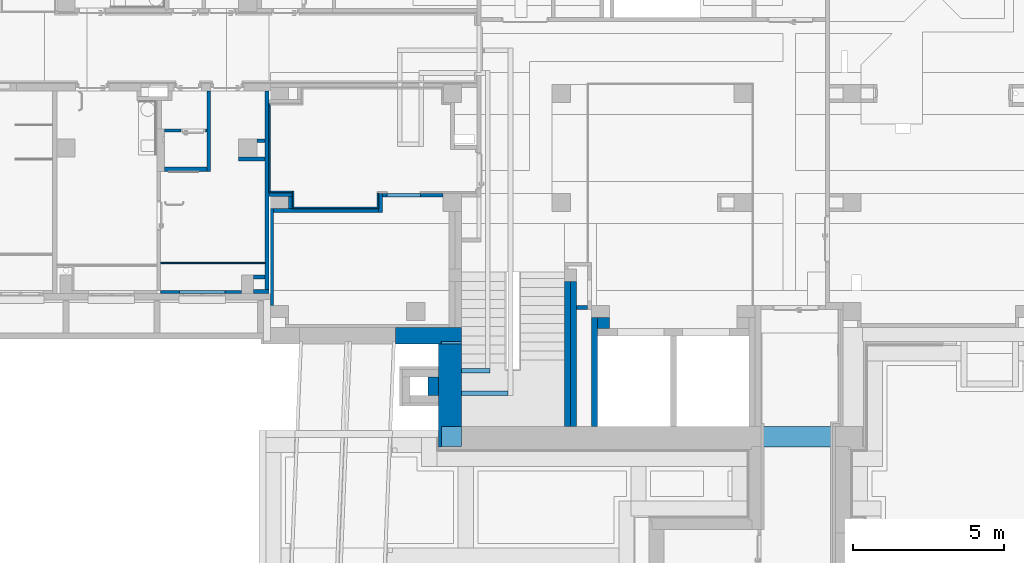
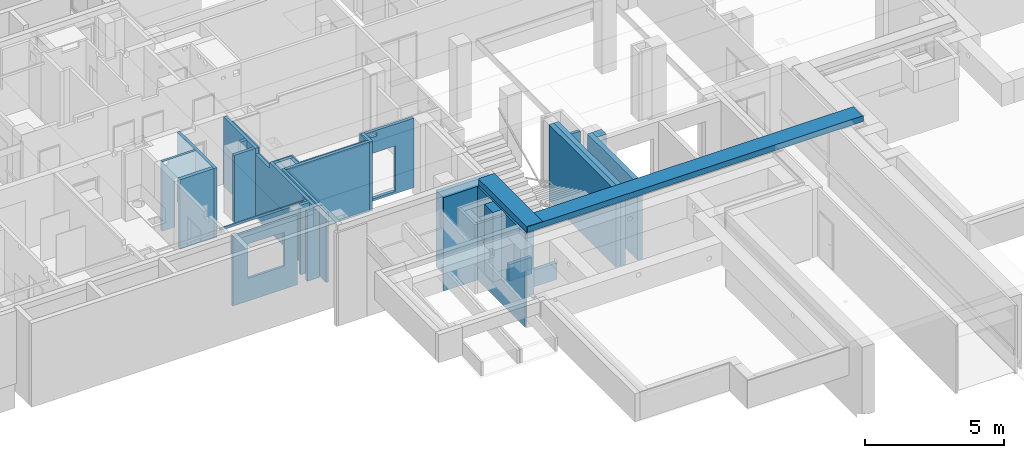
# One storey, part 16 of 84: 33 walls, 9 openings.
"""IFC4 building model written with IfcOpenShell, lengths in metres."""

import ifcopenshell
import ifcopenshell.guid

model = None  # the IFC model being written
_history = None  # IfcOwnerHistory: only IFC2X3 demands one
_inside = {}  # id of a spatial element -> (the spatial element, [elements in it])
_under = {}  # id of a project, library or spatial element -> (it, [spatial elements below it])
_declared = {}  # id of a project -> (the project, [libraries it declares])
_typed = {}  # id of a type object -> (the type object, [elements of that type])
_made_of = {}  # id of a material, layer set ... -> (it, [elements and type objects made of it])


def new_model(schema):
    """Start an empty IFC model of exactly this schema.

    Asked for "IFC4X3", IfcOpenShell would pick the latest addendum, in which some entities
    have other attributes; the version numbers below select the first issue.
    IFC2X3 requires an IfcOwnerHistory on every rooted entity: one is made here for all.
    """
    global model, _history
    if schema == "IFC4X3":
        model = ifcopenshell.file(schema_version=(4, 3, 0, 0))
    else:
        model = ifcopenshell.file(schema=schema)
    _inside.clear()
    _under.clear()
    _declared.clear()
    _typed.clear()
    _made_of.clear()
    _history = None
    if model.schema == "IFC2X3":
        org = make("IfcOrganization", Name="unknown")
        user = make(
            "IfcPersonAndOrganization",
            ThePerson=make("IfcPerson", FamilyName="unknown"),
            TheOrganization=org,
        )
        app = make(
            "IfcApplication",
            ApplicationDeveloper=org,
            Version="unknown",
            ApplicationFullName="unknown",
            ApplicationIdentifier="unknown",
        )
        _history = make(
            "IfcOwnerHistory",
            OwningUser=user,
            OwningApplication=app,
            ChangeAction="ADDED",
            CreationDate=0,
        )
    return model


def make(cls, **values):
    """One entity of the class cls with the attributes given. An attribute that is None is left unset."""
    return model.create_entity(
        cls, **{name: value for name, value in values.items() if value is not None}
    )


def entity(cls, *values):
    """Any entity or typed value of the class cls, its attributes in the order of the schema. None: left unset."""
    e = model.create_entity(cls)
    for i, value in enumerate(values):
        if value is not None:
            e[i] = value
    return e


def rooted(cls, **values):
    """An entity with a GlobalId (a new one), such as an element, a storey or a relation."""
    return make(cls, GlobalId=ifcopenshell.guid.new(), OwnerHistory=_history, **values)


def si_unit(unit_type, name, prefix=None):
    """IfcSIUnit, for example si_unit("LENGTHUNIT", "METRE", prefix="MILLI")."""
    return make("IfcSIUnit", UnitType=unit_type, Prefix=prefix, Name=name)


def converted_unit(unit_type, name, factor, base, dimensions=None, offset=None):
    """IfcConversionBasedUnit, such as the inch: factor (a typed value) times the base unit."""
    return make(
        "IfcConversionBasedUnit"
        if offset is None
        else "IfcConversionBasedUnitWithOffset",
        ConversionOffset=offset,
        Dimensions=None
        if dimensions is None
        else entity("IfcDimensionalExponents", *dimensions),
        UnitType=unit_type,
        Name=name,
        ConversionFactor=make(
            "IfcMeasureWithUnit", ValueComponent=factor, UnitComponent=base
        ),
    )


def derived_unit(unit_type, elements):
    """IfcDerivedUnit: a product of units, each with its exponent."""
    return make(
        "IfcDerivedUnit",
        Elements=[
            make("IfcDerivedUnitElement", Unit=unit, Exponent=power)
            for unit, power in elements
        ],
        UnitType=unit_type,
    )


def assignment(units):
    """IfcUnitAssignment: the units of a project."""
    return None if units is None else make("IfcUnitAssignment", Units=units)


def point(xyz):
    """IfcCartesianPoint."""
    return None if xyz is None else make("IfcCartesianPoint", Coordinates=xyz)


def direction(xyz):
    """IfcDirection."""
    return None if xyz is None else make("IfcDirection", DirectionRatios=xyz)


def frame(location, z_axis=None, x_axis=None):
    """IfcAxis2Placement3D, a coordinate frame: its origin and axes. An axis left out is left unset."""
    return make(
        "IfcAxis2Placement3D",
        Location=point(location),
        Axis=direction(z_axis),
        RefDirection=direction(x_axis),
    )


def frame_2d(location, x_axis=None):
    """IfcAxis2Placement2D, a coordinate frame in the plane: its origin and x axis."""
    return make(
        "IfcAxis2Placement2D", Location=point(location), RefDirection=direction(x_axis)
    )


def origin():
    """The frame at (0, 0, 0) with its axes left unset."""
    return frame((0.0, 0.0, 0.0))


def origin_with_axes():
    """The frame at (0, 0, 0) with the z axis (0, 0, 1) and the x axis (1, 0, 0) written out."""
    return frame((0.0, 0.0, 0.0), z_axis=(0.0, 0.0, 1.0), x_axis=(1.0, 0.0, 0.0))


def place(relative_to, where):
    """IfcLocalPlacement: puts the frame where relative to a parent placement (None: the world)."""
    return make(
        "IfcLocalPlacement", PlacementRelTo=relative_to, RelativePlacement=where
    )


def context(
    kind, dimensions, precision=None, world=None, true_north=None, identifier=None
):
    """IfcGeometricRepresentationContext, for example the 3D "Model" context."""
    return make(
        "IfcGeometricRepresentationContext",
        ContextIdentifier=identifier,
        ContextType=kind,
        CoordinateSpaceDimension=dimensions,
        Precision=precision,
        WorldCoordinateSystem=world,
        TrueNorth=true_north,
    )


def subcontext(parent, identifier, kind, view, scale=None):
    """IfcGeometricRepresentationSubContext, for example "Body" below "Model"."""
    return make(
        "IfcGeometricRepresentationSubContext",
        ContextIdentifier=identifier,
        ContextType=kind,
        ParentContext=parent,
        TargetScale=scale,
        TargetView=view,
    )


def project(units=None, contexts=None):
    """IfcProject with its units and contexts."""
    return rooted(
        "IfcProject",
        Name="project",
        RepresentationContexts=contexts,
        UnitsInContext=assignment(units),
    )


def spatial(cls, under=None, at=None, **own):
    """A site, building, storey or space (cls), placed at a placement, below another one or the project."""
    s = rooted(cls, ObjectPlacement=at, **own)
    if under is not None:
        _under.setdefault(under.id(), (under, []))[1].append(s)
    return s


def polyline(points):
    """IfcPolyline through the points."""
    return make("IfcPolyline", Points=[point(p) for p in points])


def profile(cls, at=None, kind="AREA", **sizes):
    """A parametric profile (cls). Its sizes go by their IFC names, for example OverallWidth=200.0."""
    return make(cls, ProfileType=kind, Position=at, **sizes)


def rectangle(**sizes):
    """IfcRectangleProfileDef."""
    return profile("IfcRectangleProfileDef", **sizes)


def outline(outer, holes=None, kind="AREA"):
    """IfcArbitraryClosedProfileDef: a profile drawn as a closed curve; with holes, ...WithVoids."""
    if holes is None:
        return make("IfcArbitraryClosedProfileDef", ProfileType=kind, OuterCurve=outer)
    return make(
        "IfcArbitraryProfileDefWithVoids",
        ProfileType=kind,
        OuterCurve=outer,
        InnerCurves=holes,
    )


def extrude(swept, where, along, depth):
    """IfcExtrudedAreaSolid: the profile swept, set in the frame where, extruded along a direction by depth."""
    return make(
        "IfcExtrudedAreaSolid",
        SweptArea=swept,
        Position=where,
        ExtrudedDirection=direction(along),
        Depth=depth,
    )


def clip(a, b, op="DIFFERENCE"):
    """IfcBooleanClippingResult: the solid a cut by the half space b."""
    return make(
        "IfcBooleanClippingResult", Operator=op, FirstOperand=a, SecondOperand=b
    )


def bounded_halfspace(plane, agree, where, boundary):
    """IfcPolygonalBoundedHalfSpace: a half space limited to a polygon's prism."""
    return make(
        "IfcPolygonalBoundedHalfSpace",
        BaseSurface=make("IfcPlane", Position=plane),
        AgreementFlag=agree,
        Position=where,
        PolygonalBoundary=boundary,
    )


def shape(context_of_items, identifier, shape_type, items):
    """IfcShapeRepresentation: the items that make up one representation, for example the "Body"."""
    return make(
        "IfcShapeRepresentation",
        ContextOfItems=context_of_items,
        RepresentationIdentifier=identifier,
        RepresentationType=shape_type,
        Items=items,
    )


def material(Name=None, Category=None):
    """IfcMaterial."""
    return make("IfcMaterial", Name=Name, Category=Category)


def layer(
    of_material, thickness, ventilated=None, Name=None, Category=None, Priority=None
):
    """IfcMaterialLayer: one layer of a wall or slab, of a material (None: an air gap)."""
    return make(
        "IfcMaterialLayer",
        Material=of_material,
        LayerThickness=thickness,
        IsVentilated=ventilated,
        Name=Name,
        Category=Category,
        Priority=Priority,
    )


def layer_set(layers, Name=None):
    """IfcMaterialLayerSet."""
    return make("IfcMaterialLayerSet", MaterialLayers=layers, LayerSetName=Name)


def layer_usage(for_layer_set, set_direction, sense, offset, extent=None):
    """IfcMaterialLayerSetUsage: how a layer set lies in its element."""
    return make(
        "IfcMaterialLayerSetUsage",
        ForLayerSet=for_layer_set,
        LayerSetDirection=set_direction,
        DirectionSense=sense,
        OffsetFromReferenceLine=offset,
        ReferenceExtent=extent,
    )


def made_of(thing, what):
    """Note that an element or type object is made of a material, layer set ...; save() writes the relation."""
    if what is not None:
        _made_of.setdefault(what.id(), (what, []))[1].append(thing)
    return thing


def element(
    cls,
    number,
    at=None,
    inside=None,
    cuts=None,
    type_object=None,
    material=None,
    context=None,
    identifier="Body",
    shape_type=None,
    held_by="IfcProductDefinitionShape",
    body=None,
    shapes=None,
    **own,
):
    """One element of the class cls, such as IfcWall. Its Tag is "e" and its number.

    at: its placement. inside: the storey or other place that contains it. cuts: it is an
    opening in that element (IfcRelVoidsElement). A single representation is given by context,
    identifier, shape_type and body (its items); several are given by shapes. held_by: the class
    of the entity that holds the representations. save() writes the other relations.
    """
    e = rooted(cls, Tag="e%d" % number, ObjectPlacement=at, **own)
    if body is not None:
        shapes = [shape(context, identifier, shape_type, body)]
    if shapes is not None:
        e.Representation = make(held_by, Representations=shapes)
    if inside is not None:
        _inside.setdefault(inside.id(), (inside, []))[1].append(e)
    if cuts is not None:
        rooted(
            "IfcRelVoidsElement", RelatingBuildingElement=cuts, RelatedOpeningElement=e
        )
    if type_object is not None:
        _typed.setdefault(type_object.id(), (type_object, []))[1].append(e)
    return made_of(e, material)


def aggregate(whole, parts):
    """IfcRelAggregates: a whole, such as a stair, and the parts it consists of."""
    return rooted("IfcRelAggregates", RelatingObject=whole, RelatedObjects=parts)


def save(model, path):
    """Write the relations noted so far, then the file.

    IfcRelAggregates (storeys below a building ...), IfcRelContainedInSpatialStructure (elements
    in a storey), IfcRelDefinesByType, IfcRelAssociatesMaterial and IfcRelDeclares: one each for
    every whole, place, type object, material and project.
    """
    for whole, parts in _under.values():
        aggregate(whole, parts)
    for where, things in _inside.values():
        rooted(
            "IfcRelContainedInSpatialStructure",
            RelatedElements=things,
            RelatingStructure=where,
        )
    for kind, things in _typed.values():
        rooted("IfcRelDefinesByType", RelatedObjects=things, RelatingType=kind)
    for what, things in _made_of.values():
        rooted("IfcRelAssociatesMaterial", RelatedObjects=things, RelatingMaterial=what)
    for by, libraries in _declared.values():
        rooted("IfcRelDeclares", RelatingContext=by, RelatedDefinitions=libraries)
    model.write(path)


model = new_model("IFC4")

# Units and contexts
model_context = context("Model", 3, precision=1e-05, world=origin())
body_context = subcontext(model_context, "Body", "Model", "MODEL_VIEW")
ifc_project = project(units=[si_unit("LENGTHUNIT", "METRE"), si_unit("AREAUNIT", "SQUARE_METRE"), si_unit("VOLUMEUNIT", "CUBIC_METRE"), si_unit("MASSUNIT", "GRAM", prefix="KILO"), converted_unit("PLANEANGLEUNIT", "DEGREE", entity("IfcPlaneAngleMeasure", 0.0174532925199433), si_unit("PLANEANGLEUNIT", "RADIAN"), dimensions=[0, 0, 0, 0, 0, 0, 0]), derived_unit("THERMALTRANSMITTANCEUNIT", [(si_unit("POWERUNIT", "WATT"), 1), (si_unit("THERMODYNAMICTEMPERATUREUNIT", "KELVIN"), -1), (si_unit("LENGTHUNIT", "METRE"), -2)]), derived_unit("VOLUMETRICFLOWRATEUNIT", [(si_unit("LENGTHUNIT", "METRE"), 3), (converted_unit("TIMEUNIT", "hour", entity("IfcTimeMeasure", 3600.0), si_unit("TIMEUNIT", "SECOND"), dimensions=[0, 0, 1, 0, 0, 0, 0]), -1), (si_unit("LENGTHUNIT", "METRE"), -1)])], contexts=[model_context])

# Site, building, storey
site_placement = place(None, origin())
site = spatial("IfcSite", under=ifc_project, at=site_placement, Name="3. ASŘ", CompositionType="ELEMENT")
building_placement = place(site_placement, origin())
building = spatial("IfcBuilding", under=site, at=building_placement, Name="Pavilon C", CompositionType="ELEMENT")
storey_placement = place(building_placement, frame((0.0, 0.0, -3.3)))
storey = spatial("IfcBuildingStorey", under=building, at=storey_placement, Name="Půdorys 1.PP", CompositionType="ELEMENT", Elevation=-3.3)

# Walls
ifc_material_1 = material(Name="ZELEZOBETONOVÁ KCE")
ifc_layer_1 = layer(ifc_material_1, 0.2)
ifc_layer_set_1 = layer_set([ifc_layer_1])
ifc_layer_usage_1 = layer_usage(ifc_layer_set_1, "AXIS2", "POSITIVE", 0.0)
wall_1_placement = place(storey_placement, frame((35.55, -3.8, -0.4), z_axis=(0.0, 0.0, 1.0), x_axis=(0.0, 1.0, 0.0)))
element("IfcWall", 1, at=wall_1_placement, inside=storey, material=ifc_layer_usage_1, Name="ZELEZOBETONOVÁ KCE", context=body_context, shape_type="SweptSolid", body=[
    extrude(rectangle(XDim=3.6, YDim=0.2, at=frame_2d((1.8, 0.1), x_axis=(1.0, 0.0))), origin_with_axes(), (0.0, 0.0, 1.0), 3.35),
])
ifc_material_2 = material(Name="ZDIVO Z CDm")
ifc_layer_2 = layer(ifc_material_2, 0.35)
ifc_layer_set_2 = layer_set([ifc_layer_2])
ifc_layer_usage_2 = layer_usage(ifc_layer_set_2, "AXIS2", "POSITIVE", 0.0)
wall_2_placement = place(storey_placement, frame((35.95, -0.200000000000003, -0.1), z_axis=(0.0, 0.0, 1.0), x_axis=(-1.0, 0.0, 0.0)))
element("IfcWall", 2, at=wall_2_placement, inside=storey, material=ifc_layer_usage_2, Name="ZDIVO Z CDm", context=body_context, shape_type="SweptSolid", body=[
    extrude(rectangle(XDim=0.4, YDim=0.35, at=frame_2d((0.2, 0.175), x_axis=(1.0, 0.0))), origin_with_axes(), (0.0, 0.0, 1.0), 3.05),
])
ifc_material_3 = material(Name="ZELEZOBETONOVÁ KCE")
ifc_layer_3 = layer(ifc_material_3, 0.2)
ifc_layer_set_3 = layer_set([ifc_layer_3])
ifc_layer_usage_3 = layer_usage(ifc_layer_set_3, "AXIS2", "POSITIVE", 0.0)
wall_3_placement = place(storey_placement, frame((34.45, 1.0, -0.4), z_axis=(0.0, 0.0, 1.0), x_axis=(0.0, -1.0, 0.0)))
element("IfcWall", 3, at=wall_3_placement, inside=storey, material=ifc_layer_usage_3, Name="ZELEZOBETONOVÁ KCE", context=body_context, shape_type="SweptSolid", body=[
    extrude(rectangle(XDim=4.8, YDim=0.2, at=frame_2d((2.4, 0.1), x_axis=(1.0, 0.0))), origin_with_axes(), (0.0, 0.0, 1.0), 3.35),
])
ifc_material_4 = material(Name="ZELEZOBETONOVÁ KCE")
ifc_layer_4 = layer(ifc_material_4, 0.2)
ifc_layer_set_4 = layer_set([ifc_layer_4])
ifc_layer_usage_4 = layer_usage(ifc_layer_set_4, "AXIS2", "POSITIVE", 0.0)
wall_4_placement = place(storey_placement, frame((34.65, 1.00000000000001, -0.4), z_axis=(0.0, 0.0, 1.0), x_axis=(0.0, -1.0, 0.0)))
element("IfcWall", 4, at=wall_4_placement, inside=storey, material=ifc_layer_usage_4, Name="ZELEZOBETONOVÁ KCE", context=body_context, shape_type="SweptSolid", body=[
    extrude(rectangle(XDim=4.8, YDim=0.2, at=frame_2d((2.4, 0.1), x_axis=(1.0, 0.0))), origin_with_axes(), (0.0, 0.0, 1.0), 3.35),
])
ifc_material_5 = material(Name="ZELEZOBETONOVÁ KCE")
wall_5_placement = place(storey_placement, frame((31.05, -3.8, -1.15), z_axis=(0.0, 0.0, 1.0), x_axis=(0.0, 1.0, 0.0)))
element("IfcWall", 5, at=wall_5_placement, inside=storey, material=ifc_material_5, Name="ZELEZOBETONOVÁ KCE", context=body_context, shape_type="Clipping", body=[
    clip(clip(clip(clip(clip(extrude(outline(polyline([(3.48, -0.105), (3.48, -0.08), (3.4, -0.08), (3.4, 0.0), (0.0, 0.0), (0.0, -0.08), (0.025, -0.08), (0.025, -0.105), (0.675, -0.105), (0.675, -0.755), (3.505, -0.755), (3.505, -0.105), (3.48, -0.105)])), frame((-0.675, 0.755, 0.0), z_axis=(0.0, 0.0, 1.0), x_axis=(1.0, 0.0, 0.0)), (0.0, 0.0, 1.0), 4.1), bounded_halfspace(frame((1.1725, 0.662500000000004, 1.15), z_axis=(0.0, 0.0, 1.0), x_axis=(1.0, 0.0, 0.0)), True, origin_with_axes(), polyline([(-0.65, 0.65), (-4.54747350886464e-16, 0.65), (2.805, 0.65), (2.805, 0.675), (2.725, 0.675), (-0.65, 0.675), (-0.65, 0.65)]))), bounded_halfspace(frame((1.415, 0.325, 0.750000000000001), z_axis=(0.0, 0.0, 1.0), x_axis=(0.0, -1.0, 0.0)), True, origin_with_axes(), polyline([(-4.54747350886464e-16, 0.65), (-4.54747350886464e-16, 0.0), (2.83, 0.0), (2.83, 0.65), (-4.54747350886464e-16, 0.65)]))), bounded_halfspace(frame((3.055, 0.715, 0.750000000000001), z_axis=(0.0, 0.0, -1.0), x_axis=(0.0, -1.0, 0.0)), True, origin_with_axes(), polyline([(2.83, 0.755), (2.83, 0.675), (3.28, 0.675), (3.28, 0.755), (2.83, 0.755)]))), bounded_halfspace(frame((2.8175, 0.715, 1.15), z_axis=(0.0, 0.0, -1.0), x_axis=(1.0, 0.0, 0.0)), True, origin_with_axes(), polyline([(2.805, 0.675), (2.83, 0.675), (2.83, 0.755), (2.805, 0.755), (2.805, 0.675)]))), bounded_halfspace(frame((1.335, 0.749999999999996, 1.05), z_axis=(0.0, 0.0, -1.0), x_axis=(0.0, 1.0, 0.0)), True, origin_with_axes(), polyline([(1.885, 0.744999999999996), (1.885, 0.755), (0.785, 0.755), (0.785, 0.744999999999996), (1.885, 0.744999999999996)]))),
    clip(clip(clip(clip(clip(extrude(outline(polyline([(0.475, -0.105), (0.475, 0.0), (0.0, 0.0), (0.0, -0.08), (0.025, -0.08), (0.025, -0.105), (0.475, -0.105)])), frame((2.805, 0.755, 0.0), z_axis=(0.0, 0.0, 1.0), x_axis=(1.0, 0.0, 0.0)), (0.0, 0.0, 1.0), 4.1), bounded_halfspace(frame((1.1725, 0.662500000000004, 1.15), z_axis=(0.0, 0.0, 1.0), x_axis=(1.0, 0.0, 0.0)), True, origin_with_axes(), polyline([(-0.65, 0.65), (-4.54747350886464e-16, 0.65), (2.805, 0.65), (2.805, 0.675), (2.725, 0.675), (-0.65, 0.675), (-0.65, 0.65)]))), bounded_halfspace(frame((1.415, 0.325, 0.750000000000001), z_axis=(0.0, 0.0, 1.0), x_axis=(0.0, -1.0, 0.0)), True, origin_with_axes(), polyline([(-4.54747350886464e-16, 0.65), (-4.54747350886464e-16, 0.0), (2.83, 0.0), (2.83, 0.65), (-4.54747350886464e-16, 0.65)]))), bounded_halfspace(frame((3.055, 0.715, 0.750000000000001), z_axis=(0.0, 0.0, -1.0), x_axis=(0.0, -1.0, 0.0)), True, origin_with_axes(), polyline([(2.83, 0.755), (2.83, 0.675), (3.28, 0.675), (3.28, 0.755), (2.83, 0.755)]))), bounded_halfspace(frame((2.8175, 0.715, 1.15), z_axis=(0.0, 0.0, -1.0), x_axis=(1.0, 0.0, 0.0)), True, origin_with_axes(), polyline([(2.805, 0.675), (2.83, 0.675), (2.83, 0.755), (2.805, 0.755), (2.805, 0.675)]))), bounded_halfspace(frame((1.335, 0.749999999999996, 1.05), z_axis=(0.0, 0.0, -1.0), x_axis=(0.0, 1.0, 0.0)), True, origin_with_axes(), polyline([(1.885, 0.744999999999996), (1.885, 0.755), (0.785, 0.755), (0.785, 0.744999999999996), (1.885, 0.744999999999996)]))),
])
ifc_material_6 = material(Name="ZDIVO Z CDm")
ifc_layer_5 = layer(ifc_material_6, 0.125)
ifc_layer_set_5 = layer_set([ifc_layer_5])
ifc_layer_usage_5 = layer_usage(ifc_layer_set_5, "AXIS2", "POSITIVE", 0.0)
wall_6_placement = place(storey_placement, frame((24.2, 0.599999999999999, -0.1)))
element("IfcWall", 6, at=wall_6_placement, inside=storey, material=ifc_layer_usage_5, Name="ZDIVO Z CDm", context=body_context, shape_type="SweptSolid", body=[
    extrude(rectangle(XDim=0.5, YDim=0.125, at=frame_2d((0.25, 0.0625), x_axis=(1.0, 0.0))), origin_with_axes(), (0.0, 0.0, 1.0), 3.05),
])
ifc_material_7 = material(Name="ZDIVO Z CDm")
ifc_layer_6 = layer(ifc_material_7, 0.125)
ifc_layer_set_6 = layer_set([ifc_layer_6])
ifc_layer_usage_6 = layer_usage(ifc_layer_set_6, "AXIS2", "POSITIVE", 0.0)
wall_7_placement = place(storey_placement, frame((24.575, 5.7, -0.1), z_axis=(0.0, 0.0, 1.0), x_axis=(-1.0, 0.0, 0.0)))
element("IfcWall", 7, at=wall_7_placement, inside=storey, material=ifc_layer_usage_6, Name="ZDIVO Z CDm", context=body_context, shape_type="SweptSolid", body=[
    extrude(rectangle(XDim=0.275, YDim=0.125, at=frame_2d((0.1375, 0.0625), x_axis=(1.0, 0.0))), origin_with_axes(), (0.0, 0.0, 1.0), 3.05),
])
ifc_material_8 = material(Name="ZDIVO Z CDm")
ifc_layer_7 = layer(ifc_material_8, 0.125)
ifc_layer_set_7 = layer_set([ifc_layer_7])
ifc_layer_usage_7 = layer_usage(ifc_layer_set_7, "AXIS2", "POSITIVE", 0.0)
wall_8_placement = place(storey_placement, frame((24.575, 1.2, -0.1), z_axis=(0.0, 0.0, 1.0), x_axis=(-1.0, 0.0, 0.0)))
element("IfcWall", 8, at=wall_8_placement, inside=storey, material=ifc_layer_usage_7, Name="ZDIVO Z CDm", context=body_context, shape_type="SweptSolid", body=[
    extrude(rectangle(XDim=0.375, YDim=0.125, at=frame_2d((0.1875, 0.0625), x_axis=(1.0, 0.0))), origin_with_axes(), (0.0, 0.0, 1.0), 3.05),
])
ifc_material_9 = material(Name="ZDIVO Z CDm")
ifc_layer_8 = layer(ifc_material_9, 0.125)
ifc_layer_set_8 = layer_set([ifc_layer_8])
ifc_layer_usage_8 = layer_usage(ifc_layer_set_8, "AXIS2", "POSITIVE", 0.0)
wall_9_placement = place(storey_placement, frame((25.35, 3.8, -0.1), z_axis=(0.0, 0.0, 1.0), x_axis=(0.0, -1.0, 0.0)))
element("IfcWall", 9, at=wall_9_placement, inside=storey, material=ifc_layer_usage_8, Name="ZDIVO Z CDm", context=body_context, shape_type="SweptSolid", body=[
    extrude(rectangle(XDim=0.4, YDim=0.125, at=frame_2d((0.2, 0.0625), x_axis=(1.0, 0.0))), origin_with_axes(), (0.0, 0.0, 1.0), 3.05),
])
ifc_material_10 = material(Name="ZDIVO Z CDm")
ifc_layer_9 = layer(ifc_material_10, 0.125)
ifc_layer_set_9 = layer_set([ifc_layer_9])
ifc_layer_usage_9 = layer_usage(ifc_layer_set_9, "AXIS2", "POSITIVE", 0.0)
wall_10_placement = place(storey_placement, frame((24.7, 3.8, -0.1)))
element("IfcWall", 10, at=wall_10_placement, inside=storey, material=ifc_layer_usage_9, Name="ZDIVO Z CDm", context=body_context, shape_type="SweptSolid", body=[
    extrude(rectangle(XDim=0.775, YDim=0.125, at=frame_2d((0.3875, 0.0625), x_axis=(1.0, 0.0))), origin_with_axes(), (0.0, 0.0, 1.0), 3.05),
])
ifc_material_11 = material(Name="ZDIVO Z CDm")
ifc_layer_10 = layer(ifc_material_11, 0.125)
ifc_layer_set_10 = layer_set([ifc_layer_10])
ifc_layer_usage_10 = layer_usage(ifc_layer_set_10, "AXIS2", "POSITIVE", 0.0)
wall_11_placement = place(storey_placement, frame((28.325, 3.4, -0.1), z_axis=(0.0, 0.0, 1.0), x_axis=(-1.0, 0.0, 0.0)))
element("IfcWall", 11, at=wall_11_placement, inside=storey, material=ifc_layer_usage_10, Name="ZDIVO Z CDm", context=body_context, shape_type="SweptSolid", body=[
    extrude(rectangle(XDim=3.475, YDim=0.125, at=frame_2d((1.7375, 0.0625), x_axis=(1.0, 0.0))), origin_with_axes(), (0.0, 0.0, 1.0), 3.05),
])
ifc_material_12 = material(Name="ZDIVO Z CDm")
ifc_layer_11 = layer(ifc_material_12, 0.125)
ifc_layer_set_11 = layer_set([ifc_layer_11])
ifc_layer_usage_11 = layer_usage(ifc_layer_set_11, "AXIS2", "POSITIVE", 0.0)
wall_12_placement = place(storey_placement, frame((28.325, 3.9, -0.1), z_axis=(0.0, 0.0, 1.0), x_axis=(0.0, -1.0, 0.0)))
element("IfcWall", 12, at=wall_12_placement, inside=storey, material=ifc_layer_usage_11, Name="ZDIVO Z CDm", context=body_context, shape_type="SweptSolid", body=[
    extrude(rectangle(XDim=0.625, YDim=0.125, at=frame_2d((0.3125, 0.0625), x_axis=(1.0, 0.0))), origin_with_axes(), (0.0, 0.0, 1.0), 3.05),
])

# Wall, openings
ifc_material_13 = material(Name="ZDIVO Z CDm")
ifc_layer_12 = layer(ifc_material_13, 0.125)
ifc_layer_set_12 = layer_set([ifc_layer_12])
ifc_layer_usage_12 = layer_usage(ifc_layer_set_12, "AXIS2", "POSITIVE", 0.0)
wall_13_placement = place(storey_placement, frame((30.45, 3.9, -0.1), z_axis=(0.0, 0.0, 1.0), x_axis=(-1.0, 0.0, 0.0)))
wall_13 = element("IfcWall", 13, at=wall_13_placement, inside=storey, material=ifc_layer_usage_12, Name="ZDIVO Z CDm", context=body_context, shape_type="SweptSolid", body=[
    extrude(rectangle(XDim=2.0, YDim=0.125, at=frame_2d((1.0, 0.0625), x_axis=(1.0, 0.0))), origin_with_axes(), (0.0, 0.0, 1.0), 3.05),
])
opening_1_placement = place(wall_13_placement, frame((1.82423757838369, 0.125, 2.8), z_axis=(0.0, -1.0, 0.0), x_axis=(0.0, 0.0, 1.0)))
element("IfcOpeningElement", 14, at=opening_1_placement, cuts=wall_13, Name="UT", ObjectType="Opening", context=body_context, shape_type="SweptSolid", body=[
    extrude(outline(polyline([(0.0, 0.3), (0.15, 0.3), (0.15, 0.0), (0.0, 0.0), (0.0, 0.3)])), origin_with_axes(), (0.0, 0.0, 1.0), 0.125),
])
opening_2_placement = place(wall_13_placement, frame((1.85, 0.125, 0.1), z_axis=(0.0, -1.0, 0.0), x_axis=(0.0, 0.0, 1.0)))
element("IfcOpeningElement", 15, at=opening_2_placement, cuts=wall_13, Name="Dveřní otvor", ObjectType="Opening", context=body_context, shape_type="SweptSolid", body=[
    extrude(outline(polyline([(0.0, 1.1), (2.0, 1.1), (2.0, 0.0), (0.0, 0.0), (0.0, 1.1)])), origin_with_axes(), (0.0, 0.0, 1.0), 0.125),
])

# Wall, opening
ifc_material_14 = material(Name="PÓROBETONOVÉ ZDIVO")
ifc_layer_13 = layer(ifc_material_14, 0.1)
ifc_layer_set_13 = layer_set([ifc_layer_13])
ifc_layer_usage_13 = layer_usage(ifc_layer_set_13, "AXIS2", "POSITIVE", 0.0)
wall_14_placement = place(storey_placement, frame((21.125, 0.6, -0.1)))
wall_14 = element("IfcWall", 16, at=wall_14_placement, inside=storey, material=ifc_layer_usage_13, Name="PÓROBETONOVÉ ZDIVO", context=body_context, shape_type="SweptSolid", body=[
    extrude(rectangle(XDim=2.675, YDim=0.1, at=frame_2d((1.3375, 0.05), x_axis=(1.0, 0.0))), origin_with_axes(), (0.0, 0.0, 1.0), 3.05),
])
opening_3_placement = place(wall_14_placement, frame((2.125, 0.1, 1.0), z_axis=(0.0, -1.0, 0.0), x_axis=(0.0, 0.0, 1.0)))
element("IfcOpeningElement", 17, at=opening_3_placement, cuts=wall_14, Name="Okenní otvor", ObjectType="Opening", context=body_context, shape_type="SweptSolid", body=[
    extrude(outline(polyline([(0.0, 1.5), (1.5, 1.5), (1.5, 0.0), (0.0, 0.0), (0.0, 1.5)])), origin_with_axes(), (0.0, 0.0, 1.0), 0.1),
])

# Walls
ifc_material_15 = material(Name="ZELEZOBETONOVÁ KCE")
ifc_layer_14 = layer(ifc_material_15, 0.15)
ifc_layer_set_14 = layer_set([ifc_layer_14])
ifc_layer_usage_14 = layer_usage(ifc_layer_set_14, "AXIS2", "POSITIVE", 0.0)
wall_15_placement = place(storey_placement, frame((32.6, -2.625, -0.9), z_axis=(0.0, 0.0, 1.0), x_axis=(-1.0, 2.93385387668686e-16, 0.0)))
element("IfcWall", 18, at=wall_15_placement, inside=storey, material=ifc_layer_usage_14, Name="ZELEZOBETONOVÁ KCE", context=body_context, shape_type="SweptSolid", body=[
    extrude(rectangle(XDim=1.55, YDim=0.15, at=frame_2d((0.775000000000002, 0.075), x_axis=(1.0, 0.0))), origin_with_axes(), (0.0, 0.0, 1.0), 0.73),
])
ifc_material_16 = material(Name="ZELEZOBETONOVÁ KCE")
ifc_layer_15 = layer(ifc_material_16, 0.15)
ifc_layer_set_15 = layer_set([ifc_layer_15])
ifc_layer_usage_15 = layer_usage(ifc_layer_set_15, "AXIS2", "POSITIVE", 0.0)
wall_16_placement = place(storey_placement, frame((31.05, -2.025, -0.9)))
element("IfcWall", 19, at=wall_16_placement, inside=storey, material=ifc_layer_usage_15, Name="ZELEZOBETONOVÁ KCE", context=body_context, shape_type="SweptSolid", body=[
    extrude(rectangle(XDim=0.950000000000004, YDim=0.15, at=frame_2d((0.475000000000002, 0.075), x_axis=(1.0, 0.0))), origin_with_axes(), (0.0, 0.0, 1.0), 0.73),
])
ifc_material_17 = material(Name="ZDIVO Z CDm")
ifc_layer_16 = layer(ifc_material_17, 0.125)
ifc_layer_set_16 = layer_set([ifc_layer_16])
ifc_layer_usage_16 = layer_usage(ifc_layer_set_16, "AXIS2", "POSITIVE", 0.0)
wall_17_placement = place(storey_placement, frame((35.225, 0.199999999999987, -0.1), z_axis=(0.0, 0.0, 1.0), x_axis=(-1.0, 1.51582450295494e-16, 0.0)))
element("IfcWall", 20, at=wall_17_placement, inside=storey, material=ifc_layer_usage_16, Name="ZDIVO Z CDm", context=body_context, shape_type="SweptSolid", body=[
    extrude(rectangle(XDim=0.374999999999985, YDim=0.125, at=frame_2d((0.187499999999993, 0.0625), x_axis=(1.0, 0.0))), origin_with_axes(), (0.0, 0.0, 1.0), 3.05),
])
ifc_material_18 = material(Name="ZDIVO Z CDm")
ifc_layer_17 = layer(ifc_material_18, 0.125)
ifc_layer_set_17 = layer_set([ifc_layer_17])
ifc_layer_usage_17 = layer_usage(ifc_layer_set_17, "AXIS2", "POSITIVE", 0.0)
wall_18_placement = place(storey_placement, frame((23.7, 4.975, -0.1)))
element("IfcWall", 21, at=wall_18_placement, inside=storey, material=ifc_layer_usage_17, Name="ZDIVO Z CDm", context=body_context, shape_type="SweptSolid", body=[
    extrude(rectangle(XDim=0.875, YDim=0.125, at=frame_2d((0.4375, 0.0625), x_axis=(1.0, 0.0))), origin_with_axes(), (0.0, 0.0, 1.0), 3.05),
])
ifc_material_19 = material(Name="ZDIVO Z CDm")
ifc_layer_18 = layer(ifc_material_19, 0.35)
ifc_layer_set_18 = layer_set([ifc_layer_18])
ifc_layer_usage_18 = layer_usage(ifc_layer_set_18, "AXIS2", "POSITIVE", 0.0)
wall_19_placement = place(storey_placement, frame((29.955, -2.165, -0.1), z_axis=(0.0, 0.0, 1.0), x_axis=(0.0, -1.0, 0.0)))
element("IfcWall", 22, at=wall_19_placement, inside=storey, material=ifc_layer_usage_18, Name="ZDIVO Z CDm", context=body_context, shape_type="SweptSolid", body=[
    extrude(rectangle(XDim=0.6, YDim=0.35, at=frame_2d((0.3, 0.175), x_axis=(1.0, 0.0))), origin_with_axes(), (0.0, 0.0, 1.0), 3.05),
])
ifc_material_20 = material(Name="ZELEZOBETONOVÁ KCE")
ifc_layer_19 = layer(ifc_material_20, 0.45)
ifc_material_21 = material(Name="LIGNOPOR")
ifc_layer_20 = layer(ifc_material_21, 0.025)
ifc_material_22 = material(Name="PÓROBETONOVÉ ZDIVO")
ifc_layer_21 = layer(ifc_material_22, 0.08)
ifc_layer_set_19 = layer_set([ifc_layer_19, ifc_layer_20, ifc_layer_21])
ifc_layer_usage_19 = layer_usage(ifc_layer_set_19, "AXIS2", "POSITIVE", 0.0)
wall_20_placement = place(storey_placement, frame((31.05, -0.520000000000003, -1.15), z_axis=(0.0, 0.0, 1.0), x_axis=(-1.0, 0.0, 0.0)))
element("IfcWall", 23, at=wall_20_placement, inside=storey, material=ifc_layer_usage_19, Name="ZELEZOBETONOVÁ KCE", context=body_context, shape_type="Clipping", body=[
    clip(clip(clip(clip(extrude(rectangle(XDim=2.16909355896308, YDim=0.555, at=frame_2d((1.08454677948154, 0.2775), x_axis=(1.0, 0.0))), origin_with_axes(), (0.0, 0.0, 1.0), 4.1), bounded_halfspace(frame((1.08454677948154, 0.225, 0.750000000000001), z_axis=(0.0, 0.0, 1.0), x_axis=(0.0, -1.0, 0.0)), True, origin_with_axes(), polyline([(0.0, 0.45), (0.0, 0.0), (2.16909355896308, 0.0), (2.16909355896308, 0.45), (0.0, 0.45)]))), bounded_halfspace(frame((1.26263742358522, 0.465, 1.15), z_axis=(0.0, 0.0, 1.0), x_axis=(1.0, 0.0, 0.0)), True, origin_with_axes(), polyline([(0.649999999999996, 0.45), (2.16909355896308, 0.45), (2.16909355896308, 0.475), (0.675, 0.475), (0.649999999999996, 0.475), (0.649999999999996, 0.45)]))), bounded_halfspace(frame((0.6625, 0.515, 1.15), z_axis=(0.0, 0.0, -1.0), x_axis=(-1.0, 0.0, 0.0)), True, origin_with_axes(), polyline([(0.675, 0.555), (0.65, 0.555), (0.649999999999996, 0.475), (0.675, 0.475), (0.675, 0.555)]))), bounded_halfspace(frame((0.324999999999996, 0.515, 0.750000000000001), z_axis=(0.0, 0.0, -1.0), x_axis=(0.0, -1.0, 0.0)), True, origin_with_axes(), polyline([(0.0, 0.555), (0.0, 0.475), (0.649999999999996, 0.475), (0.649999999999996, 0.555), (0.0, 0.555)]))),
])

# Wall, openings
ifc_material_23 = material(Name="ZDIVO Z CDm")
ifc_layer_22 = layer(ifc_material_23, 0.125)
ifc_layer_set_20 = layer_set([ifc_layer_22])
ifc_layer_usage_20 = layer_usage(ifc_layer_set_20, "AXIS2", "POSITIVE", 0.0)
wall_21_placement = place(storey_placement, frame((24.7, 0.724999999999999, -0.1), z_axis=(0.0, 0.0, 1.0), x_axis=(0.0, 1.0, 0.0)))
wall_21 = element("IfcWall", 24, at=wall_21_placement, inside=storey, material=ifc_layer_usage_20, Name="ZDIVO Z CDm", context=body_context, shape_type="SweptSolid", body=[
    extrude(rectangle(XDim=6.55, YDim=0.125, at=frame_2d((3.275, 0.0625), x_axis=(1.0, 0.0))), origin_with_axes(), (0.0, 0.0, 1.0), 3.05),
])
opening_4_placement = place(wall_21_placement, frame((4.25, 0.125, 2.8), z_axis=(0.0, -1.0, 0.0), x_axis=(0.0, 0.0, 1.0)))
element("IfcOpeningElement", 25, at=opening_4_placement, cuts=wall_21, Name="VZT", ObjectType="Opening", context=body_context, shape_type="SweptSolid", body=[
    extrude(outline(polyline([(0.0, 1.0), (0.25, 1.0), (0.25, 0.0), (0.0, 0.0), (0.0, 1.0)])), origin_with_axes(), (0.0, 0.0, 1.0), 0.125),
])
opening_5_placement = place(wall_21_placement, frame((0.82995807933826, 0.125, 2.85), z_axis=(0.0, -1.0, 0.0), x_axis=(0.0, 0.0, 1.0)))
element("IfcOpeningElement", 26, at=opening_5_placement, cuts=wall_21, Name="UT", ObjectType="Opening", context=body_context, shape_type="SweptSolid", body=[
    extrude(outline(polyline([(0.0, 0.3), (0.15, 0.3), (0.15, 0.0), (0.0, 0.0), (0.0, 0.3)])), origin_with_axes(), (0.0, 0.0, 1.0), 0.125),
])

# Wall, opening
ifc_material_24 = material(Name="PÓROBETONOVÉ ZDIVO")
ifc_layer_23 = layer(ifc_material_24, 0.1)
ifc_layer_set_21 = layer_set([ifc_layer_23])
ifc_layer_usage_21 = layer_usage(ifc_layer_set_21, "AXIS2", "POSITIVE", 0.0)
wall_22_placement = place(storey_placement, frame((24.75, 3.4, -0.1), z_axis=(0.0, 0.0, 1.0), x_axis=(0.0, -1.0, 0.0)))
wall_22 = element("IfcWall", 27, at=wall_22_placement, inside=storey, material=ifc_layer_usage_21, Name="PÓROBETONOVÉ ZDIVO", context=body_context, shape_type="SweptSolid", body=[
    extrude(rectangle(XDim=3.2, YDim=0.1, at=frame_2d((1.6, 0.05), x_axis=(1.0, 0.0))), origin_with_axes(), (0.0, 0.0, 1.0), 3.05),
])
opening_6_placement = place(wall_22_placement, frame((2.14504192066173, 0.1, 2.85), z_axis=(0.0, -1.0, 0.0), x_axis=(0.0, 0.0, 1.0)))
element("IfcOpeningElement", 28, at=opening_6_placement, cuts=wall_22, Name="UT", ObjectType="Opening", context=body_context, shape_type="SweptSolid", body=[
    extrude(outline(polyline([(0.0, 0.3), (0.15, 0.3), (0.15, 0.0), (0.0, 0.0), (0.0, 0.3)])), origin_with_axes(), (0.0, 0.0, 1.0), 0.1),
])

# Walls
ifc_material_25 = material(Name="ZELEZOBETONOVÁ KCE")
ifc_layer_24 = layer(ifc_material_25, 0.65)
ifc_material_26 = material(Name="LIGNOPOR")
ifc_layer_25 = layer(ifc_material_26, 0.025)
ifc_layer_set_22 = layer_set([ifc_layer_24, ifc_layer_25])
ifc_layer_usage_22 = layer_usage(ifc_layer_set_22, "AXIS2", "POSITIVE", 0.0)
wall_23_placement = place(storey_placement, frame((31.05, -4.45, 2.95), z_axis=(0.0, 0.0, 1.0), x_axis=(0.0, 1.0, 0.0)))
element("IfcWall", 29, at=wall_23_placement, inside=storey, material=ifc_layer_usage_22, context=body_context, shape_type="SweptSolid", body=[
    extrude(outline(polyline([(0.025, -0.675), (3.505, -0.675), (3.505, -0.025), (3.48, -0.025), (3.48, 0.0), (0.0, 0.0), (0.0, -0.025), (0.0250000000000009, -0.025), (0.025, -0.675)])), frame((-0.025, 0.675, 0.0), z_axis=(0.0, 0.0, 1.0), x_axis=(1.0, 0.0, 0.0)), (0.0, 0.0, 1.0), 0.25),
])
ifc_material_27 = material(Name="ZELEZOBETONOVÁ KCE")
ifc_layer_26 = layer(ifc_material_27, 0.65)
ifc_material_28 = material(Name="LIGNOPOR")
ifc_layer_27 = layer(ifc_material_28, 0.0249999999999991)
ifc_layer_set_23 = layer_set([ifc_layer_26, ifc_layer_27])
ifc_layer_usage_23 = layer_usage(ifc_layer_set_23, "AXIS2", "POSITIVE", 0.0)
wall_24_placement = place(storey_placement, frame((44.3, -3.80000000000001, 2.95), z_axis=(0.0, 0.0, 1.0), x_axis=(-1.0, 7.89372760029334e-16, 0.0)))
element("IfcWall", 30, at=wall_24_placement, inside=storey, material=ifc_layer_usage_23, context=body_context, shape_type="SweptSolid", body=[
    extrude(outline(polyline([(-13.9, -0.67500000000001), (-0.649999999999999, -0.67500000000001), (-0.65, -0.0250000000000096), (1.97343190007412e-17, -0.02500000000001), (7.17930342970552e-30, -9.09494701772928e-15), (-13.925, -1.09920156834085e-14), (-13.925, -0.0250000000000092), (-13.9, -0.0250000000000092), (-13.9, -0.67500000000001)])), frame((13.9, 0.67500000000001, 0.0), z_axis=(0.0, 0.0, 1.0), x_axis=(1.0, 0.0, 0.0)), (0.0, 0.0, 1.0), 0.25),
])
ifc_material_29 = material(Name="AKUSTICKÝ OBKLAD")
ifc_layer_28 = layer(ifc_material_29, 0.05)
ifc_layer_set_24 = layer_set([ifc_layer_28])
ifc_layer_usage_24 = layer_usage(ifc_layer_set_24, "AXIS2", "POSITIVE", 0.0)
wall_25_placement = place(storey_placement, frame((28.325, 3.4, 0.0), z_axis=(0.0, 0.0, 1.0), x_axis=(0.0, 1.0, 0.0)))
element("IfcWall", 31, at=wall_25_placement, inside=storey, material=ifc_layer_usage_24, Name="AKUSTICKÝ OBKLAD", context=body_context, shape_type="SweptSolid", body=[
    extrude(rectangle(XDim=0.500000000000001, YDim=0.05, at=frame_2d((0.25, 0.025), x_axis=(1.0, 0.0))), origin_with_axes(), (0.0, 0.0, 1.0), 2.95),
])
ifc_material_30 = material(Name="AKUSTICKÝ OBKLAD")
ifc_layer_29 = layer(ifc_material_30, 0.05)
ifc_layer_set_25 = layer_set([ifc_layer_29])
ifc_layer_usage_25 = layer_usage(ifc_layer_set_25, "AXIS2", "POSITIVE", 0.0)
wall_26_placement = place(storey_placement, frame((25.475, 3.4, 0.0), z_axis=(0.0, 0.0, 1.0), x_axis=(1.0, -1.62409768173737e-16, 0.0)))
element("IfcWall", 32, at=wall_26_placement, inside=storey, material=ifc_layer_usage_25, Name="AKUSTICKÝ OBKLAD", context=body_context, shape_type="SweptSolid", body=[
    extrude(rectangle(XDim=2.8, YDim=0.05, at=frame_2d((1.4, 0.025), x_axis=(1.0, 0.0))), origin_with_axes(), (0.0, 0.0, 1.0), 2.95),
])
ifc_material_31 = material(Name="AKUSTICKÝ OBKLAD")
ifc_layer_30 = layer(ifc_material_31, 0.05)
ifc_layer_set_26 = layer_set([ifc_layer_30])
ifc_layer_usage_26 = layer_usage(ifc_layer_set_26, "AXIS2", "POSITIVE", 0.0)
wall_27_placement = place(storey_placement, frame((25.475, 3.975, 0.0), z_axis=(0.0, 0.0, 1.0), x_axis=(0.0, -1.0, 0.0)))
element("IfcWall", 33, at=wall_27_placement, inside=storey, material=ifc_layer_usage_26, Name="AKUSTICKÝ OBKLAD", context=body_context, shape_type="SweptSolid", body=[
    extrude(rectangle(XDim=0.525, YDim=0.05, at=frame_2d((0.2625, 0.025), x_axis=(1.0, 0.0))), origin_with_axes(), (0.0, 0.0, 1.0), 2.95),
])
ifc_material_32 = material(Name="AKUSTICKÝ OBKLAD")
ifc_layer_31 = layer(ifc_material_32, 0.05)
ifc_layer_set_27 = layer_set([ifc_layer_31])
ifc_layer_usage_27 = layer_usage(ifc_layer_set_27, "AXIS2", "POSITIVE", 0.0)
wall_28_placement = place(storey_placement, frame((24.75, 3.925, 0.0)))
element("IfcWall", 34, at=wall_28_placement, inside=storey, material=ifc_layer_usage_27, Name="AKUSTICKÝ OBKLAD", context=body_context, shape_type="SweptSolid", body=[
    extrude(rectangle(XDim=0.725, YDim=0.05, at=frame_2d((0.3625, 0.025), x_axis=(1.0, 0.0))), origin_with_axes(), (0.0, 0.0, 1.0), 2.95),
])

# Wall, opening
ifc_material_33 = material(Name="AKUSTICKÝ OBKLAD")
ifc_layer_32 = layer(ifc_material_33, 0.05)
ifc_layer_set_28 = layer_set([ifc_layer_32])
ifc_layer_usage_28 = layer_usage(ifc_layer_set_28, "AXIS2", "POSITIVE", 0.0)
wall_29_placement = place(storey_placement, frame((24.7, 6.875, 0.0), z_axis=(0.0, 0.0, 1.0), x_axis=(0.0, -1.0, 0.0)))
wall_29 = element("IfcWall", 35, at=wall_29_placement, inside=storey, material=ifc_layer_usage_28, Name="AKUSTICKÝ OBKLAD", context=body_context, shape_type="SweptSolid", body=[
    extrude(rectangle(XDim=2.95, YDim=0.05, at=frame_2d((1.475, 0.025), x_axis=(1.0, 0.0))), origin_with_axes(), (0.0, 0.0, 1.0), 2.95),
])
opening_7_placement = place(wall_29_placement, frame((2.90000000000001, 0.05, 2.7), z_axis=(0.0, -1.0, 0.0), x_axis=(0.0, 0.0, 1.0)))
element("IfcOpeningElement", 36, at=opening_7_placement, cuts=wall_29, Name="VZT", ObjectType="Opening", context=body_context, shape_type="SweptSolid", body=[
    extrude(outline(polyline([(0.0, 0.999999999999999), (0.25, 0.999999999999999), (0.25, 0.0), (0.0, 0.0), (0.0, 0.999999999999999)])), origin_with_axes(), (0.0, 0.0, 1.0), 0.05),
])

# Walls
ifc_material_34 = material(Name="SDK SVISLA CAST PODHLEDU")
ifc_layer_33 = layer(ifc_material_34, 0.0400000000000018)
ifc_layer_set_29 = layer_set([ifc_layer_33])
ifc_layer_usage_29 = layer_usage(ifc_layer_set_29, "AXIS2", "POSITIVE", 0.0)
wall_30_placement = place(storey_placement, frame((21.125, 1.585, 2.6), z_axis=(0.0, 0.0, 1.0), x_axis=(1.0, 6.59054131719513e-17, 0.0)))
element("IfcWall", 37, at=wall_30_placement, inside=storey, material=ifc_layer_usage_29, Name="SDK SVISLA CAST PODHLEDU", context=body_context, shape_type="SweptSolid", body=[
    extrude(rectangle(XDim=3.45, YDim=0.0400000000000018, at=frame_2d((1.725, 0.0200000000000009), x_axis=(1.0, 0.0))), origin_with_axes(), (0.0, 0.0, 1.0), 0.1),
])
ifc_material_35 = material(Name="SDK - 1 KCE + DVOJITÉ OPLÁŠTĚNÍ")
ifc_layer_34 = layer(ifc_material_35, 0.125)
ifc_layer_set_30 = layer_set([ifc_layer_34])
ifc_layer_usage_30 = layer_usage(ifc_layer_set_30, "AXIS2", "POSITIVE", 0.0)
wall_31_placement = place(storey_placement, frame((22.775, 4.625, -0.1), z_axis=(0.0, 0.0, 1.0), x_axis=(0.0, 1.0, 0.0)))
element("IfcWall", 38, at=wall_31_placement, inside=storey, material=ifc_layer_usage_30, Name="SDK - 1 KCE + DVOJITÉ OPLÁŠTĚNÍ", context=body_context, shape_type="SweptSolid", body=[
    extrude(rectangle(XDim=2.65, YDim=0.125, at=frame_2d((1.325, 0.0625), x_axis=(1.0, 0.0))), origin_with_axes(), (0.0, 0.0, 1.0), 3.05),
])

# Wall, openings
ifc_material_36 = material(Name="SDK - 1 KCE + DVOJITÉ OPLÁŠTĚNÍ")
ifc_layer_35 = layer(ifc_material_36, 0.1)
ifc_layer_set_31 = layer_set([ifc_layer_35])
ifc_layer_usage_31 = layer_usage(ifc_layer_set_31, "AXIS2", "POSITIVE", 0.0)
wall_32_placement = place(storey_placement, frame((21.25, 5.925, -0.1)))
wall_32 = element("IfcWall", 39, at=wall_32_placement, inside=storey, material=ifc_layer_usage_31, Name="SDK - 1 KCE + DVOJITÉ OPLÁŠTĚNÍ", context=body_context, shape_type="SweptSolid", body=[
    extrude(rectangle(XDim=1.4, YDim=0.1, at=frame_2d((0.7, 0.05), x_axis=(1.0, 0.0))), origin_with_axes(), (0.0, 0.0, 1.0), 3.05),
])
opening_8_placement = place(wall_32_placement, frame((0.55, 0.0, 0.0), z_axis=(0.0, 1.0, 0.0), x_axis=(0.0, 0.0, 1.0)))
element("IfcOpeningElement", 40, at=opening_8_placement, cuts=wall_32, Name="Dveřní otvor", ObjectType="Opening", context=body_context, shape_type="SweptSolid", body=[
    extrude(outline(polyline([(0.0, 0.8), (2.12, 0.8), (2.12, 0.0), (0.0, 0.0), (0.0, 0.8)])), origin_with_axes(), (0.0, 0.0, 1.0), 0.1),
])
opening_9_placement = place(wall_32_placement, frame((0.0763191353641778, 0.0, 2.82), z_axis=(0.0, 1.0, 0.0), x_axis=(0.0, 0.0, 1.0)))
element("IfcOpeningElement", 41, at=opening_9_placement, cuts=wall_32, Name="VZT", ObjectType="Opening", context=body_context, shape_type="SweptSolid", body=[
    extrude(outline(polyline([(0.105, 0.0), (0.0940245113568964, 0.000575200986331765), (0.0831692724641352, 0.0022945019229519), (0.0725532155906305, 0.00513906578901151), (0.062292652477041, 0.0090777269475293), (0.0525, 0.0140673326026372), (0.0432825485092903, 0.0200532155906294), (0.0347412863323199, 0.0269697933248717), (0.0269697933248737, 0.0347412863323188), (0.0200532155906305, 0.0432825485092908), (0.014067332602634, 0.0525), (0.00907772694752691, 0.062292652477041), (0.0051390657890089, 0.072553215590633), (0.00229450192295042, 0.0831692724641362), (0.000575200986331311, 0.0940245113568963), (0.0, 0.105), (0.000575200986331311, 0.115975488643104), (0.00229450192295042, 0.126830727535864), (0.0051390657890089, 0.137446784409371), (0.00907772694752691, 0.147707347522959), (0.014067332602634, 0.1575), (0.0200532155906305, 0.166717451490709), (0.0269697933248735, 0.175258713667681), (0.0347412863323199, 0.183030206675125), (0.0432825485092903, 0.189946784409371), (0.0525, 0.195932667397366), (0.062292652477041, 0.200922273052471), (0.0725532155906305, 0.204860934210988), (0.0831692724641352, 0.207705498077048), (0.0940245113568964, 0.209424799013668), (0.105, 0.21), (0.115975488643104, 0.209424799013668), (0.126830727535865, 0.207705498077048), (0.137446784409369, 0.204860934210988), (0.147707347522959, 0.200922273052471), (0.1575, 0.195932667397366), (0.16671745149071, 0.189946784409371), (0.17525871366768, 0.183030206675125), (0.183030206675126, 0.175258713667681), (0.189946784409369, 0.166717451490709), (0.195932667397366, 0.1575), (0.200922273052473, 0.147707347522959), (0.204860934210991, 0.137446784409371), (0.20770549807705, 0.126830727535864), (0.209424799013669, 0.115975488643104), (0.21, 0.105), (0.209424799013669, 0.0940245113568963), (0.20770549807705, 0.0831692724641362), (0.204860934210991, 0.072553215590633), (0.200922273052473, 0.062292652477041), (0.195932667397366, 0.0525), (0.18994678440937, 0.0432825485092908), (0.183030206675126, 0.0347412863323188), (0.17525871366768, 0.0269697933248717), (0.16671745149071, 0.0200532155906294), (0.1575, 0.0140673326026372), (0.147707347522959, 0.0090777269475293), (0.13744678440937, 0.00513906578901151), (0.126830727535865, 0.0022945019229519), (0.115975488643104, 0.000575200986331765), (0.105, 0.0)])), origin_with_axes(), (0.0, 0.0, 1.0), 0.1),
])

# Wall
ifc_material_37 = material(Name="SDK - 1 KCE + DVOJITÉ OPLÁŠTĚNÍ")
ifc_layer_36 = layer(ifc_material_37, 0.15)
ifc_layer_set_32 = layer_set([ifc_layer_36])
ifc_layer_usage_32 = layer_usage(ifc_layer_set_32, "AXIS2", "POSITIVE", 0.0)
wall_33_placement = place(storey_placement, frame((21.25, 4.625, -0.1)))
element("IfcWall", 42, at=wall_33_placement, inside=storey, material=ifc_layer_usage_32, Name="SDK - 1 KCE + DVOJITÉ OPLÁŠTĚNÍ", context=body_context, shape_type="SweptSolid", body=[
    extrude(rectangle(XDim=1.4, YDim=0.15, at=frame_2d((0.7, 0.075), x_axis=(1.0, 0.0))), origin_with_axes(), (0.0, 0.0, 1.0), 3.05),
])

save(model, "model.ifc")
